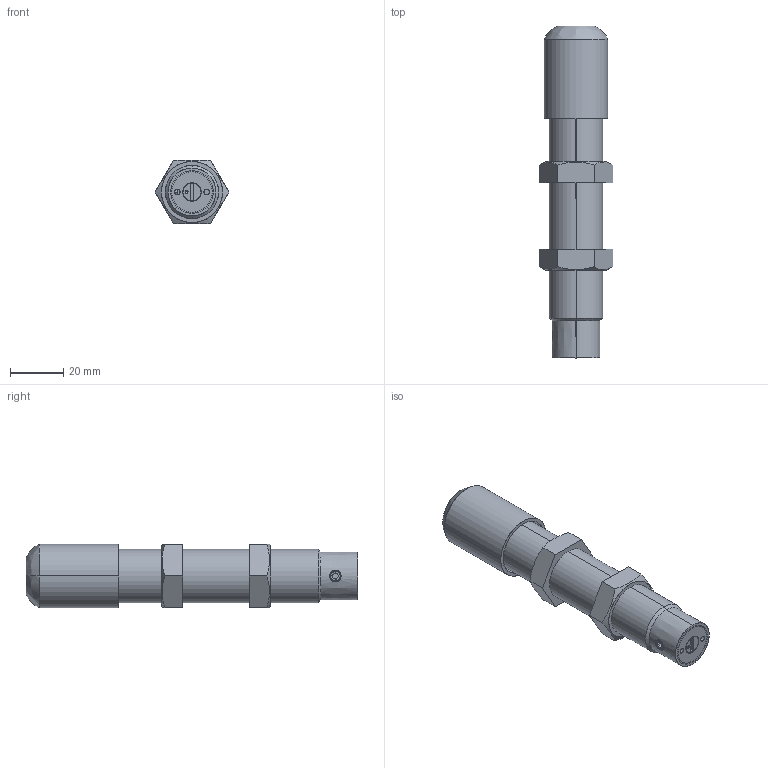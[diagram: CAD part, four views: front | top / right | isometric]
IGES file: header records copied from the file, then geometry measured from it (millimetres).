
Start section: SolidWorks IGES file using analytic representation for surfaces
Global section: file name: Y:\CAD\HP梡CAD僨乕僞\210305_HP峏怴梡\3D\FA-2016E1-C-060.IGS; native system: SolidWorks 2021; preprocessor: SolidWorks 2021; author: flgijutsu; date: 210310.145354; units: millimetre
Bounding box: 27.71 x 125 x 24 mm (x, y, z)
Surface area: 12665.1 mm2 (no closed solid volume)
Topology: 0 solids, 0 shells, 72 faces, 1098 edges, 1096 vertices
Faces by surface type: bspline 40, revolution 32
